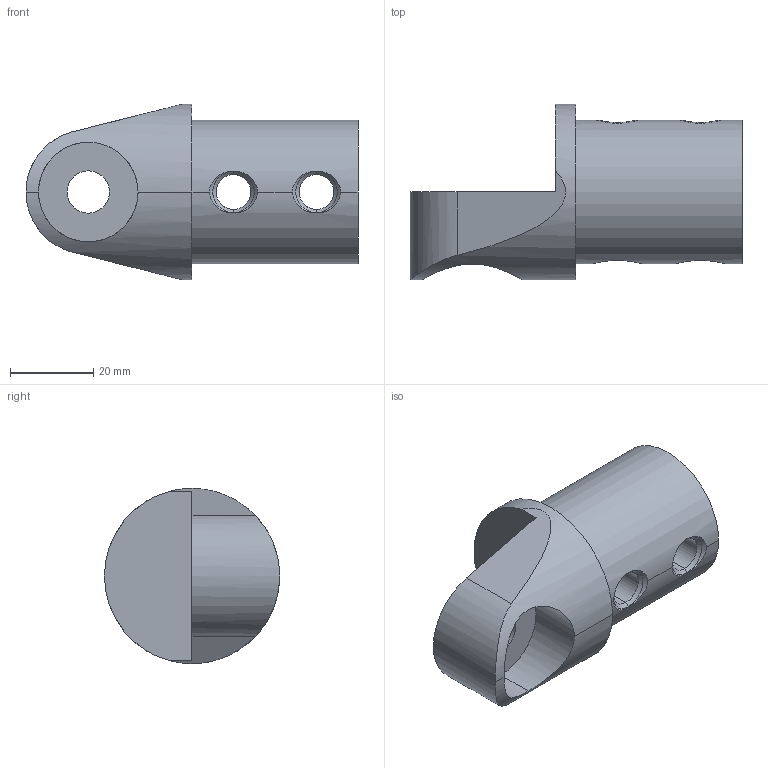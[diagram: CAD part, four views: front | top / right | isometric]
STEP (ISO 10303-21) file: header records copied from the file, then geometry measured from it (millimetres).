
FILE_DESCRIPTION(/* description */ ('VariCAD 2010-3.03 AP-214'),/* implementation_level */ '2;1');
FILE_NAME(/* name */ '0353-22-19',/* time_stamp */ '2011-06-28T23:59:08-06:00',/* author */ (''),/* organization */ (''),/* preprocessor_version */ 'ST-DEVELOPER v12',/* originating_system */ 'VariCAD 2010-3.03; kernel version (20100102)',/* authorisation */ '');
FILE_SCHEMA (('AUTOMOTIVE_DESIGN'));
Length unit declared in the file: millimetre
Products named in the file (1): Part
Bounding box: 80 x 42.2 x 42.2 mm (x, y, z)
Volume: 54323 mm3; surface area: 17352.3 mm2
Topology: 3 solids, 3 shells, 40 faces, 113 edges, 72 vertices
Faces by surface type: cylinder 25, cone 8, plane 7
Entity records: 1961 total; most frequent: CARTESIAN_POINT 637, ORIENTED_EDGE 226, DIRECTION 188, EDGE_CURVE 113, VERTEX_POINT 72, AXIS2_PLACEMENT_3D 72, LINE 44, VECTOR 44
